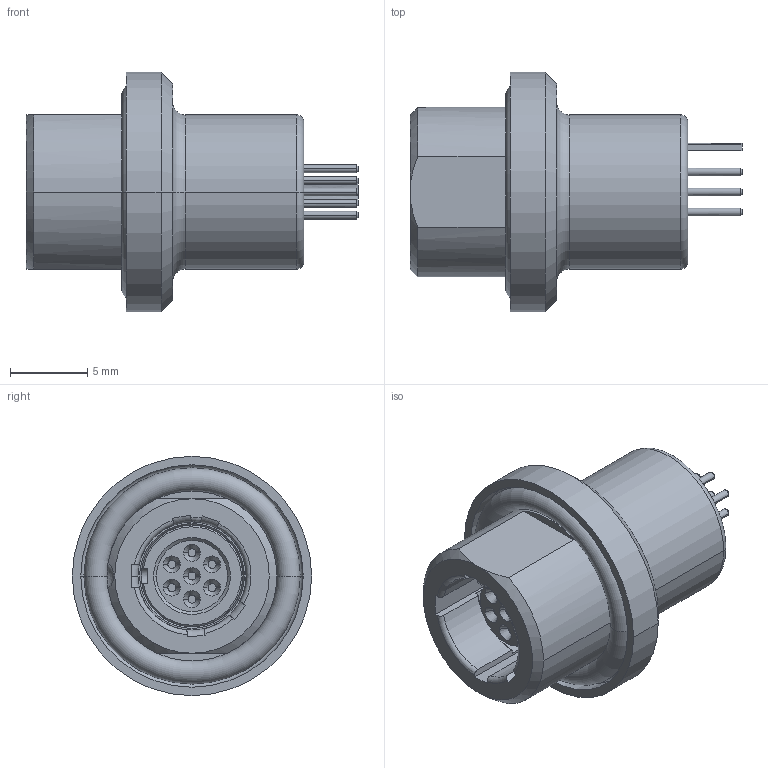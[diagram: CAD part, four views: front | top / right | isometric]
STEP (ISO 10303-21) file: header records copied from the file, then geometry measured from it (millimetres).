
FILE_DESCRIPTION((''),'2;1');
FILE_NAME('G80Y_R-P07UC00-000L-A_WITHOUT_H','2020-10-13T10:15:50',('EUnterhaslberger'),(''),'CREO PARAMETRIC BY PTC INC, 2018300','CREO PARAMETRIC BY PTC INC, 2018300','');
FILE_SCHEMA(('AP242_MANAGED_MODEL_BASED_3D_ENGINEERING_MIM_LF { 1 0 10303 442 1 1 4 }'));
Length unit declared in the file: millimetre
Products named in the file (1): G80Y_R-P07UC00-000L-A_WITHOUT_H
Bounding box: 21.5 x 15.5 x 15.5 mm (x, y, z)
Volume: 1489.8 mm3; surface area: 1802.5 mm2
Topology: 2 solids, 3 shells, 190 faces, 466 edges, 300 vertices
Faces by surface type: plane 59, cylinder 54, cone 44, torus 30, sphere 3
Entity records: 7251 total; most frequent: CARTESIAN_POINT 1277, DIRECTION 1019, ORIENTED_EDGE 930, EDGE_CURVE 465, AXIS2_PLACEMENT_3D 419, VERTEX_POINT 300, CIRCLE 229, EDGE_LOOP 213
